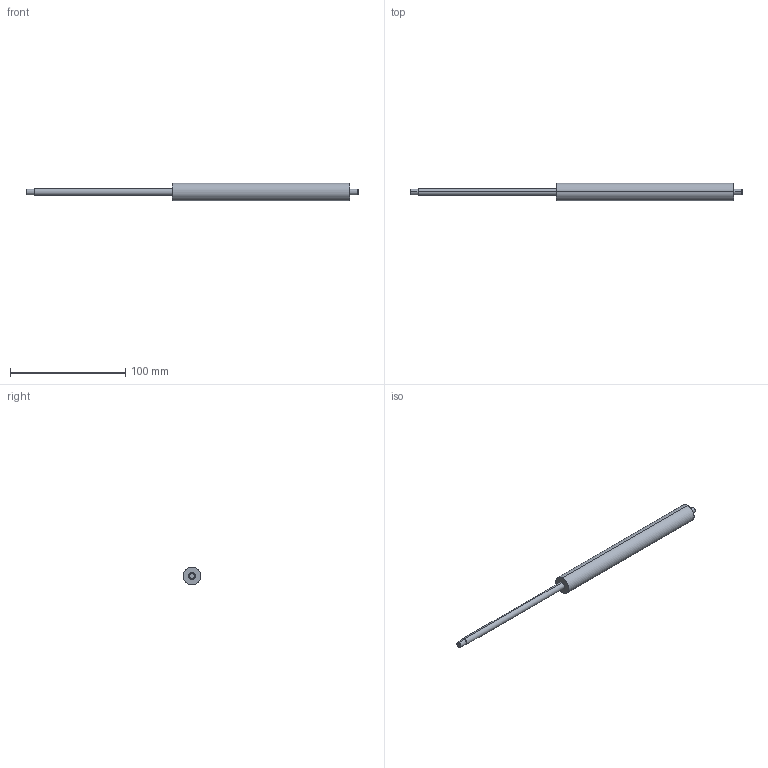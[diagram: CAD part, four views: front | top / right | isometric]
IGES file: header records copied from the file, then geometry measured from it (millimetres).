
Start section: SolidWorks IGES file using analytic representation for surfaces
Bounding box: 288 x 15.6 x 15.6 mm (x, y, z)
Surface area: 10403.7 mm2 (no closed solid volume)
Topology: 0 solids, 0 shells, 17 faces, 304 edges, 304 vertices
Faces by surface type: revolution 12, bspline 5
